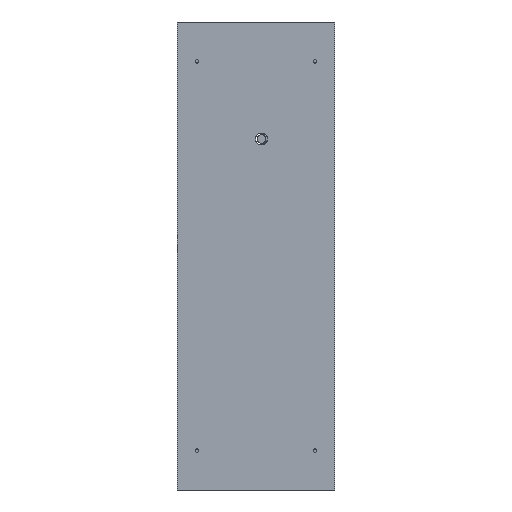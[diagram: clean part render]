
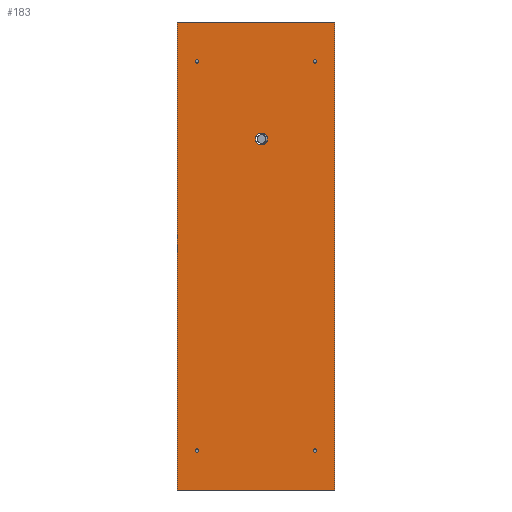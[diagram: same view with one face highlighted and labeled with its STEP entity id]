
A CAD part, front view. The second image highlights one B-rep face of the part: STEP entity #183.
In plain terms, the highlighted planar face has unit normal (0, -1, 0).
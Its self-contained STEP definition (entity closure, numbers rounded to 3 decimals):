
#67 = EDGE_CURVE('',#68,#70,#72,.T.);
#68 = VERTEX_POINT('',#69);
#69 = CARTESIAN_POINT('',(-100.,-52.,12.));
#70 = VERTEX_POINT('',#71);
#71 = CARTESIAN_POINT('',(-100.,-52.,606.));
#72 = SURFACE_CURVE('',#73,(#77,#89),.PCURVE_S1.);
#73 = LINE('',#74,#75);
#74 = CARTESIAN_POINT('',(-100.,-52.,12.));
#75 = VECTOR('',#76,1.);
#76 = DIRECTION('',(0.,0.,1.));
#77 = PCURVE('',#78,#83);
#78 = PLANE('',#79);
#79 = AXIS2_PLACEMENT_3D('',#80,#81,#82);
#80 = CARTESIAN_POINT('',(-100.,-52.,12.));
#81 = DIRECTION('',(1.,0.,0.));
#82 = DIRECTION('',(0.,0.,1.));
#83 = DEFINITIONAL_REPRESENTATION('',(#84),#88);
#84 = LINE('',#85,#86);
#85 = CARTESIAN_POINT('',(0.,0.));
#86 = VECTOR('',#87,1.);
#87 = DIRECTION('',(1.,0.));
#88 = ( GEOMETRIC_REPRESENTATION_CONTEXT(2) 
PARAMETRIC_REPRESENTATION_CONTEXT() REPRESENTATION_CONTEXT('2D SPACE',''
  ) );
#89 = PCURVE('',#90,#95);
#90 = PLANE('',#91);
#91 = AXIS2_PLACEMENT_3D('',#92,#93,#94);
#92 = CARTESIAN_POINT('',(-100.,-52.,12.));
#93 = DIRECTION('',(0.,1.,0.));
#94 = DIRECTION('',(0.,0.,1.));
#95 = DEFINITIONAL_REPRESENTATION('',(#96),#100);
#96 = LINE('',#97,#98);
#97 = CARTESIAN_POINT('',(0.,0.));
#98 = VECTOR('',#99,1.);
#99 = DIRECTION('',(1.,0.));
#100 = ( GEOMETRIC_REPRESENTATION_CONTEXT(2) 
PARAMETRIC_REPRESENTATION_CONTEXT() REPRESENTATION_CONTEXT('2D SPACE',''
  ) );
#118 = PLANE('',#119);
#119 = AXIS2_PLACEMENT_3D('',#120,#121,#122);
#120 = CARTESIAN_POINT('',(-100.,-52.,12.));
#121 = DIRECTION('',(0.,0.,1.));
#122 = DIRECTION('',(1.,0.,0.));
#172 = PLANE('',#173);
#173 = AXIS2_PLACEMENT_3D('',#174,#175,#176);
#174 = CARTESIAN_POINT('',(-100.,-52.,606.));
#175 = DIRECTION('',(0.,0.,1.));
#176 = DIRECTION('',(1.,0.,0.));
#183 = ADVANCED_FACE('',(#184,#259,#290,#321,#352,#383),#90,.F.);
#184 = FACE_BOUND('',#185,.F.);
#185 = EDGE_LOOP('',(#186,#209,#210,#233));
#186 = ORIENTED_EDGE('',*,*,#187,.F.);
#187 = EDGE_CURVE('',#68,#188,#190,.T.);
#188 = VERTEX_POINT('',#189);
#189 = CARTESIAN_POINT('',(100.,-52.,12.));
#190 = SURFACE_CURVE('',#191,(#195,#202),.PCURVE_S1.);
#191 = LINE('',#192,#193);
#192 = CARTESIAN_POINT('',(-100.,-52.,12.));
#193 = VECTOR('',#194,1.);
#194 = DIRECTION('',(1.,0.,0.));
#195 = PCURVE('',#90,#196);
#196 = DEFINITIONAL_REPRESENTATION('',(#197),#201);
#197 = LINE('',#198,#199);
#198 = CARTESIAN_POINT('',(0.,0.));
#199 = VECTOR('',#200,1.);
#200 = DIRECTION('',(0.,1.));
#201 = ( GEOMETRIC_REPRESENTATION_CONTEXT(2) 
PARAMETRIC_REPRESENTATION_CONTEXT() REPRESENTATION_CONTEXT('2D SPACE',''
  ) );
#202 = PCURVE('',#118,#203);
#203 = DEFINITIONAL_REPRESENTATION('',(#204),#208);
#204 = LINE('',#205,#206);
#205 = CARTESIAN_POINT('',(0.,0.));
#206 = VECTOR('',#207,1.);
#207 = DIRECTION('',(1.,0.));
#208 = ( GEOMETRIC_REPRESENTATION_CONTEXT(2) 
PARAMETRIC_REPRESENTATION_CONTEXT() REPRESENTATION_CONTEXT('2D SPACE',''
  ) );
#209 = ORIENTED_EDGE('',*,*,#67,.T.);
#210 = ORIENTED_EDGE('',*,*,#211,.T.);
#211 = EDGE_CURVE('',#70,#212,#214,.T.);
#212 = VERTEX_POINT('',#213);
#213 = CARTESIAN_POINT('',(100.,-52.,606.));
#214 = SURFACE_CURVE('',#215,(#219,#226),.PCURVE_S1.);
#215 = LINE('',#216,#217);
#216 = CARTESIAN_POINT('',(-100.,-52.,606.));
#217 = VECTOR('',#218,1.);
#218 = DIRECTION('',(1.,0.,0.));
#219 = PCURVE('',#90,#220);
#220 = DEFINITIONAL_REPRESENTATION('',(#221),#225);
#221 = LINE('',#222,#223);
#222 = CARTESIAN_POINT('',(594.,0.));
#223 = VECTOR('',#224,1.);
#224 = DIRECTION('',(0.,1.));
#225 = ( GEOMETRIC_REPRESENTATION_CONTEXT(2) 
PARAMETRIC_REPRESENTATION_CONTEXT() REPRESENTATION_CONTEXT('2D SPACE',''
  ) );
#226 = PCURVE('',#172,#227);
#227 = DEFINITIONAL_REPRESENTATION('',(#228),#232);
#228 = LINE('',#229,#230);
#229 = CARTESIAN_POINT('',(0.,0.));
#230 = VECTOR('',#231,1.);
#231 = DIRECTION('',(1.,0.));
#232 = ( GEOMETRIC_REPRESENTATION_CONTEXT(2) 
PARAMETRIC_REPRESENTATION_CONTEXT() REPRESENTATION_CONTEXT('2D SPACE',''
  ) );
#233 = ORIENTED_EDGE('',*,*,#234,.F.);
#234 = EDGE_CURVE('',#188,#212,#235,.T.);
#235 = SURFACE_CURVE('',#236,(#240,#247),.PCURVE_S1.);
#236 = LINE('',#237,#238);
#237 = CARTESIAN_POINT('',(100.,-52.,12.));
#238 = VECTOR('',#239,1.);
#239 = DIRECTION('',(0.,0.,1.));
#240 = PCURVE('',#90,#241);
#241 = DEFINITIONAL_REPRESENTATION('',(#242),#246);
#242 = LINE('',#243,#244);
#243 = CARTESIAN_POINT('',(0.,200.));
#244 = VECTOR('',#245,1.);
#245 = DIRECTION('',(1.,0.));
#246 = ( GEOMETRIC_REPRESENTATION_CONTEXT(2) 
PARAMETRIC_REPRESENTATION_CONTEXT() REPRESENTATION_CONTEXT('2D SPACE',''
  ) );
#247 = PCURVE('',#248,#253);
#248 = PLANE('',#249);
#249 = AXIS2_PLACEMENT_3D('',#250,#251,#252);
#250 = CARTESIAN_POINT('',(100.,-52.,12.));
#251 = DIRECTION('',(1.,0.,0.));
#252 = DIRECTION('',(0.,0.,1.));
#253 = DEFINITIONAL_REPRESENTATION('',(#254),#258);
#254 = LINE('',#255,#256);
#255 = CARTESIAN_POINT('',(0.,0.));
#256 = VECTOR('',#257,1.);
#257 = DIRECTION('',(1.,0.));
#258 = ( GEOMETRIC_REPRESENTATION_CONTEXT(2) 
PARAMETRIC_REPRESENTATION_CONTEXT() REPRESENTATION_CONTEXT('2D SPACE',''
  ) );
#259 = FACE_BOUND('',#260,.F.);
#260 = EDGE_LOOP('',(#261));
#261 = ORIENTED_EDGE('',*,*,#262,.F.);
#262 = EDGE_CURVE('',#263,#263,#265,.T.);
#263 = VERTEX_POINT('',#264);
#264 = CARTESIAN_POINT('',(-75.,-52.,64.25));
#265 = SURFACE_CURVE('',#266,(#271,#278),.PCURVE_S1.);
#266 = CIRCLE('',#267,2.25);
#267 = AXIS2_PLACEMENT_3D('',#268,#269,#270);
#268 = CARTESIAN_POINT('',(-75.,-52.,62.));
#269 = DIRECTION('',(0.,1.,0.));
#270 = DIRECTION('',(0.,-0.,1.));
#271 = PCURVE('',#90,#272);
#272 = DEFINITIONAL_REPRESENTATION('',(#273),#277);
#273 = CIRCLE('',#274,2.25);
#274 = AXIS2_PLACEMENT_2D('',#275,#276);
#275 = CARTESIAN_POINT('',(50.,25.));
#276 = DIRECTION('',(1.,0.));
#277 = ( GEOMETRIC_REPRESENTATION_CONTEXT(2) 
PARAMETRIC_REPRESENTATION_CONTEXT() REPRESENTATION_CONTEXT('2D SPACE',''
  ) );
#278 = PCURVE('',#279,#284);
#279 = CYLINDRICAL_SURFACE('',#280,2.25);
#280 = AXIS2_PLACEMENT_3D('',#281,#282,#283);
#281 = CARTESIAN_POINT('',(-75.,-52.,62.));
#282 = DIRECTION('',(0.,1.,0.));
#283 = DIRECTION('',(0.,-0.,1.));
#284 = DEFINITIONAL_REPRESENTATION('',(#285),#289);
#285 = LINE('',#286,#287);
#286 = CARTESIAN_POINT('',(0.,0.));
#287 = VECTOR('',#288,1.);
#288 = DIRECTION('',(1.,0.));
#289 = ( GEOMETRIC_REPRESENTATION_CONTEXT(2) 
PARAMETRIC_REPRESENTATION_CONTEXT() REPRESENTATION_CONTEXT('2D SPACE',''
  ) );
#290 = FACE_BOUND('',#291,.F.);
#291 = EDGE_LOOP('',(#292));
#292 = ORIENTED_EDGE('',*,*,#293,.F.);
#293 = EDGE_CURVE('',#294,#294,#296,.T.);
#294 = VERTEX_POINT('',#295);
#295 = CARTESIAN_POINT('',(-75.,-52.,558.25));
#296 = SURFACE_CURVE('',#297,(#302,#309),.PCURVE_S1.);
#297 = CIRCLE('',#298,2.25);
#298 = AXIS2_PLACEMENT_3D('',#299,#300,#301);
#299 = CARTESIAN_POINT('',(-75.,-52.,556.));
#300 = DIRECTION('',(0.,1.,0.));
#301 = DIRECTION('',(0.,-0.,1.));
#302 = PCURVE('',#90,#303);
#303 = DEFINITIONAL_REPRESENTATION('',(#304),#308);
#304 = CIRCLE('',#305,2.25);
#305 = AXIS2_PLACEMENT_2D('',#306,#307);
#306 = CARTESIAN_POINT('',(544.,25.));
#307 = DIRECTION('',(1.,0.));
#308 = ( GEOMETRIC_REPRESENTATION_CONTEXT(2) 
PARAMETRIC_REPRESENTATION_CONTEXT() REPRESENTATION_CONTEXT('2D SPACE',''
  ) );
#309 = PCURVE('',#310,#315);
#310 = CYLINDRICAL_SURFACE('',#311,2.25);
#311 = AXIS2_PLACEMENT_3D('',#312,#313,#314);
#312 = CARTESIAN_POINT('',(-75.,-52.,556.));
#313 = DIRECTION('',(0.,1.,0.));
#314 = DIRECTION('',(0.,-0.,1.));
#315 = DEFINITIONAL_REPRESENTATION('',(#316),#320);
#316 = LINE('',#317,#318);
#317 = CARTESIAN_POINT('',(0.,0.));
#318 = VECTOR('',#319,1.);
#319 = DIRECTION('',(1.,0.));
#320 = ( GEOMETRIC_REPRESENTATION_CONTEXT(2) 
PARAMETRIC_REPRESENTATION_CONTEXT() REPRESENTATION_CONTEXT('2D SPACE',''
  ) );
#321 = FACE_BOUND('',#322,.F.);
#322 = EDGE_LOOP('',(#323));
#323 = ORIENTED_EDGE('',*,*,#324,.F.);
#324 = EDGE_CURVE('',#325,#325,#327,.T.);
#325 = VERTEX_POINT('',#326);
#326 = CARTESIAN_POINT('',(75.,-52.,64.25));
#327 = SURFACE_CURVE('',#328,(#333,#340),.PCURVE_S1.);
#328 = CIRCLE('',#329,2.25);
#329 = AXIS2_PLACEMENT_3D('',#330,#331,#332);
#330 = CARTESIAN_POINT('',(75.,-52.,62.));
#331 = DIRECTION('',(0.,1.,0.));
#332 = DIRECTION('',(0.,-0.,1.));
#333 = PCURVE('',#90,#334);
#334 = DEFINITIONAL_REPRESENTATION('',(#335),#339);
#335 = CIRCLE('',#336,2.25);
#336 = AXIS2_PLACEMENT_2D('',#337,#338);
#337 = CARTESIAN_POINT('',(50.,175.));
#338 = DIRECTION('',(1.,0.));
#339 = ( GEOMETRIC_REPRESENTATION_CONTEXT(2) 
PARAMETRIC_REPRESENTATION_CONTEXT() REPRESENTATION_CONTEXT('2D SPACE',''
  ) );
#340 = PCURVE('',#341,#346);
#341 = CYLINDRICAL_SURFACE('',#342,2.25);
#342 = AXIS2_PLACEMENT_3D('',#343,#344,#345);
#343 = CARTESIAN_POINT('',(75.,-52.,62.));
#344 = DIRECTION('',(0.,1.,0.));
#345 = DIRECTION('',(0.,-0.,1.));
#346 = DEFINITIONAL_REPRESENTATION('',(#347),#351);
#347 = LINE('',#348,#349);
#348 = CARTESIAN_POINT('',(0.,0.));
#349 = VECTOR('',#350,1.);
#350 = DIRECTION('',(1.,0.));
#351 = ( GEOMETRIC_REPRESENTATION_CONTEXT(2) 
PARAMETRIC_REPRESENTATION_CONTEXT() REPRESENTATION_CONTEXT('2D SPACE',''
  ) );
#352 = FACE_BOUND('',#353,.F.);
#353 = EDGE_LOOP('',(#354));
#354 = ORIENTED_EDGE('',*,*,#355,.F.);
#355 = EDGE_CURVE('',#356,#356,#358,.T.);
#356 = VERTEX_POINT('',#357);
#357 = CARTESIAN_POINT('',(7.,-52.,465.));
#358 = SURFACE_CURVE('',#359,(#364,#371),.PCURVE_S1.);
#359 = CIRCLE('',#360,7.5);
#360 = AXIS2_PLACEMENT_3D('',#361,#362,#363);
#361 = CARTESIAN_POINT('',(7.,-52.,457.5));
#362 = DIRECTION('',(0.,1.,0.));
#363 = DIRECTION('',(0.,-0.,1.));
#364 = PCURVE('',#90,#365);
#365 = DEFINITIONAL_REPRESENTATION('',(#366),#370);
#366 = CIRCLE('',#367,7.5);
#367 = AXIS2_PLACEMENT_2D('',#368,#369);
#368 = CARTESIAN_POINT('',(445.5,107.));
#369 = DIRECTION('',(1.,0.));
#370 = ( GEOMETRIC_REPRESENTATION_CONTEXT(2) 
PARAMETRIC_REPRESENTATION_CONTEXT() REPRESENTATION_CONTEXT('2D SPACE',''
  ) );
#371 = PCURVE('',#372,#377);
#372 = CYLINDRICAL_SURFACE('',#373,7.5);
#373 = AXIS2_PLACEMENT_3D('',#374,#375,#376);
#374 = CARTESIAN_POINT('',(7.,-52.,457.5));
#375 = DIRECTION('',(0.,1.,0.));
#376 = DIRECTION('',(0.,-0.,1.));
#377 = DEFINITIONAL_REPRESENTATION('',(#378),#382);
#378 = LINE('',#379,#380);
#379 = CARTESIAN_POINT('',(0.,0.));
#380 = VECTOR('',#381,1.);
#381 = DIRECTION('',(1.,0.));
#382 = ( GEOMETRIC_REPRESENTATION_CONTEXT(2) 
PARAMETRIC_REPRESENTATION_CONTEXT() REPRESENTATION_CONTEXT('2D SPACE',''
  ) );
#383 = FACE_BOUND('',#384,.F.);
#384 = EDGE_LOOP('',(#385));
#385 = ORIENTED_EDGE('',*,*,#386,.F.);
#386 = EDGE_CURVE('',#387,#387,#389,.T.);
#387 = VERTEX_POINT('',#388);
#388 = CARTESIAN_POINT('',(75.,-52.,558.25));
#389 = SURFACE_CURVE('',#390,(#395,#402),.PCURVE_S1.);
#390 = CIRCLE('',#391,2.25);
#391 = AXIS2_PLACEMENT_3D('',#392,#393,#394);
#392 = CARTESIAN_POINT('',(75.,-52.,556.));
#393 = DIRECTION('',(0.,1.,0.));
#394 = DIRECTION('',(0.,-0.,1.));
#395 = PCURVE('',#90,#396);
#396 = DEFINITIONAL_REPRESENTATION('',(#397),#401);
#397 = CIRCLE('',#398,2.25);
#398 = AXIS2_PLACEMENT_2D('',#399,#400);
#399 = CARTESIAN_POINT('',(544.,175.));
#400 = DIRECTION('',(1.,0.));
#401 = ( GEOMETRIC_REPRESENTATION_CONTEXT(2) 
PARAMETRIC_REPRESENTATION_CONTEXT() REPRESENTATION_CONTEXT('2D SPACE',''
  ) );
#402 = PCURVE('',#403,#408);
#403 = CYLINDRICAL_SURFACE('',#404,2.25);
#404 = AXIS2_PLACEMENT_3D('',#405,#406,#407);
#405 = CARTESIAN_POINT('',(75.,-52.,556.));
#406 = DIRECTION('',(0.,1.,0.));
#407 = DIRECTION('',(0.,-0.,1.));
#408 = DEFINITIONAL_REPRESENTATION('',(#409),#413);
#409 = LINE('',#410,#411);
#410 = CARTESIAN_POINT('',(0.,0.));
#411 = VECTOR('',#412,1.);
#412 = DIRECTION('',(1.,0.));
#413 = ( GEOMETRIC_REPRESENTATION_CONTEXT(2) 
PARAMETRIC_REPRESENTATION_CONTEXT() REPRESENTATION_CONTEXT('2D SPACE',''
  ) );
